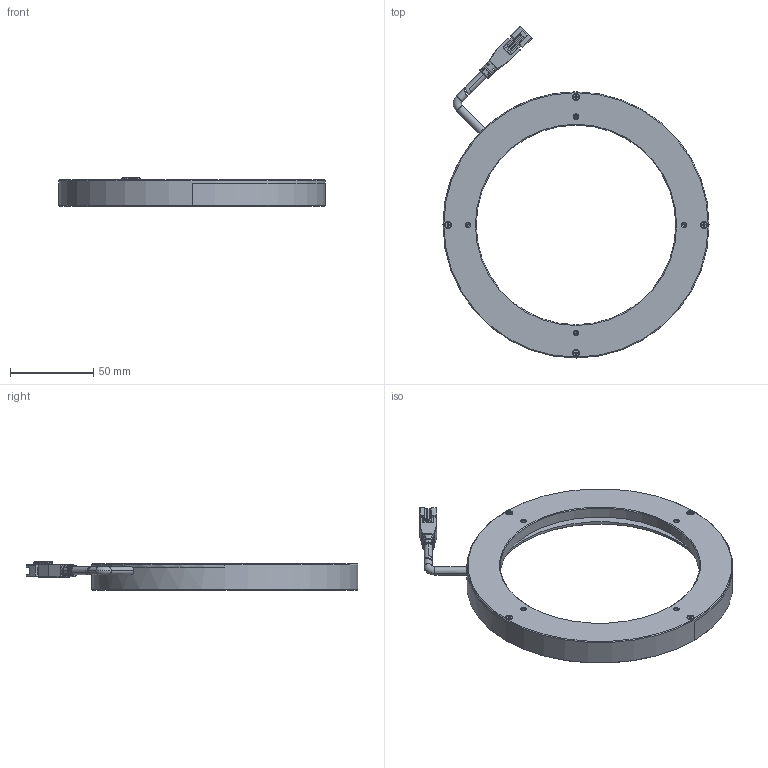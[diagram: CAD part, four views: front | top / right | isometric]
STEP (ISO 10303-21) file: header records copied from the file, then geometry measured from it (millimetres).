
FILE_DESCRIPTION((''),'2;1');
FILE_NAME('MV-LRDS-160-00-X','2023-09-15T16:40:53',('qiaoxuan5'),(''),'CREO PARAMETRIC BY PTC INC, 2020044','CREO PARAMETRIC BY PTC INC, 2020044','');
FILE_SCHEMA(('CONFIG_CONTROL_DESIGN'));
Length unit declared in the file: millimetre
Products named in the file (1): MV-LRDS-160-00-X
Bounding box: 160 x 199.58 x 17.2 mm (x, y, z)
Volume: 110161 mm3; surface area: 43261.5 mm2
Topology: 2 solids, 10 shells, 476 faces, 1166 edges, 705 vertices
Faces by surface type: plane 247, cylinder 130, cone 63, torus 18, sphere 8, bspline 8, extrusion 2
Entity records: 14377 total; most frequent: CARTESIAN_POINT 3180, DIRECTION 2362, ORIENTED_EDGE 2284, EDGE_CURVE 1142, AXIS2_PLACEMENT_3D 828, VECTOR 706, VERTEX_POINT 705, LINE 704
